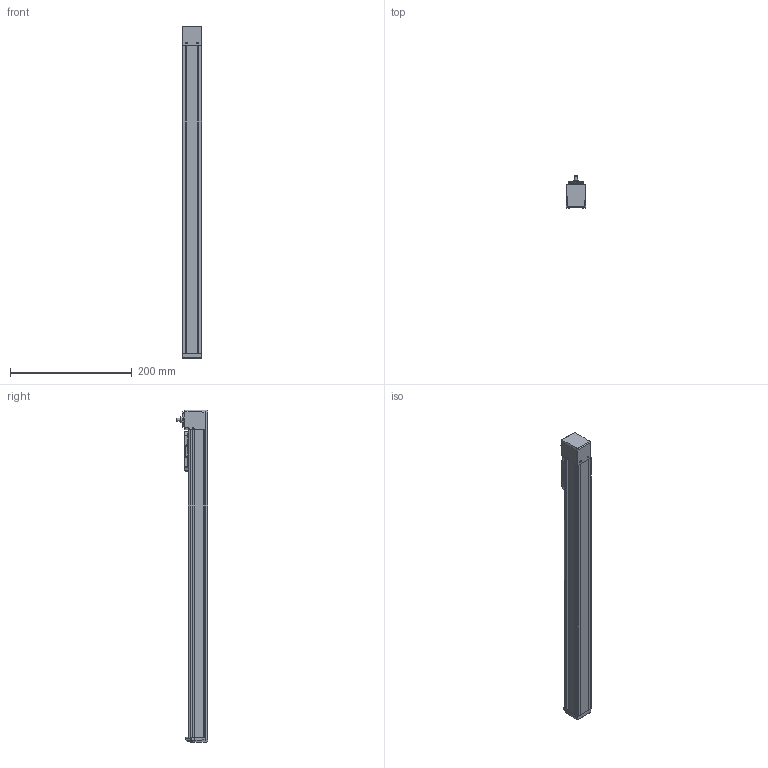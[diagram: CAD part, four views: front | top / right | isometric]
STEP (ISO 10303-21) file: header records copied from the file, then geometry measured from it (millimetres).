
FILE_DESCRIPTION(/* description */ ('STEP AP214'),/* implementation_level */ '2;1');
FILE_NAME(/* name */ 'MGTB 32 400(0)',/* time_stamp */ '2023-04-17T13:33:50+02:00',/* author */ ('License CC BY-ND 4.0'),/* organization */ ('CADENAS'),/* preprocessor_version */ 'ST-DEVELOPER v19.3',/* originating_system */ 'PARTsolutions',/* authorisation */ ' ');
FILE_SCHEMA (('AUTOMOTIVE_DESIGN {1 0 10303 214 3 1 1}'));
Length unit declared in the file: millimetre
Products named in the file (6): MGTB 32 400(0); MGTB 32 400_protection_strip; MGTB 32_carriage; MGTB 32_end_block; MGTB 32 400_profile; MGTB 32_drive_block
Assembly tree (5 placements, depth 2):
  MGTB 32 400(0)
    MGTB 32 400_protection_strip
    MGTB 32_carriage
    MGTB 32_end_block
    MGTB 32 400_profile
    MGTB 32_drive_block
Bounding box: 32 x 51.75 x 544.75 mm (x, y, z)
Volume: 525254.2 mm3; surface area: 128441.3 mm2
Topology: 5 solids, 5 shells, 664 faces, 1755 edges, 1129 vertices
Faces by surface type: plane 316, cylinder 171, cone 90, bspline 60, torus 25, sphere 2
Full cylindrical faces by diameter (mm): 1.155 x1, 1.567 x4, 1.755 x4, 1.8 x2, 2 x2, 2.3 x4, 2.459 x8, 2.46 x4, 2.5 x11, 3 x1, 3.8 x4, 4.5 x4, 5 x3, 7 x1, 7.5 x1, 9.6 x1, 19.5 x1, 25 x2
Entity records: 24513 total; most frequent: CARTESIAN_POINT 4239, DIRECTION 3359, ORIENTED_EDGE 3170, EDGE_CURVE 1585, AXIS2_PLACEMENT_3D 1204, VERTEX_POINT 1116, LINE 951, VECTOR 951
